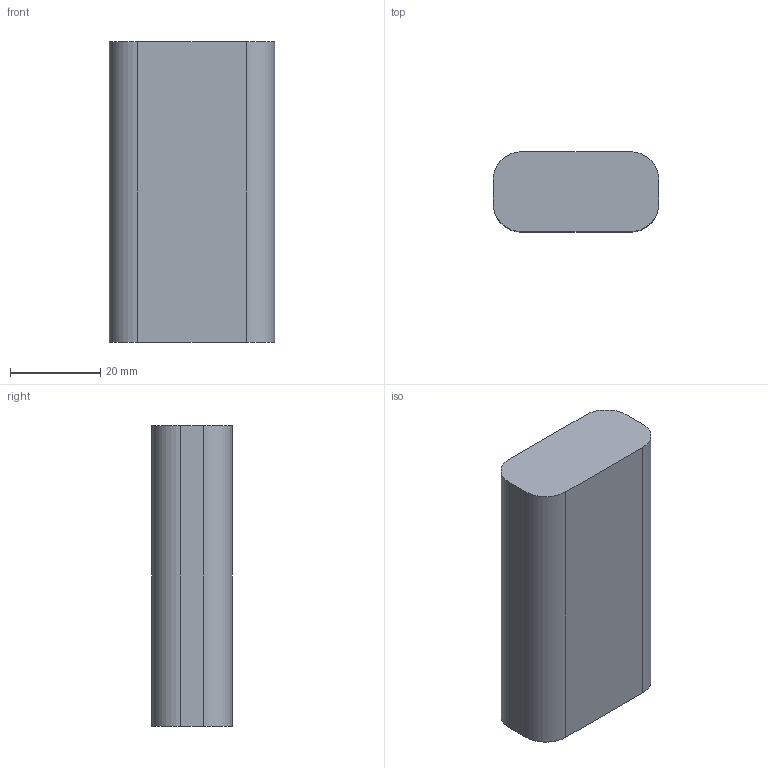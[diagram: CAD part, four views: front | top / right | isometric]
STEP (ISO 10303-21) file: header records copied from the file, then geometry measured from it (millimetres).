
FILE_DESCRIPTION (( 'STEP AP203' ), '1' );
FILE_NAME ('Battery Pack.step', '2015-03-14T23:35:37', ( '' ), ( '' ), 'SwSTEP 2.0', 'SolidWorks 2013', '' );
FILE_SCHEMA (( 'CONFIG_CONTROL_DESIGN' ));
Length unit declared in the file: inch
Products named in the file (1): Battery Pack
Bounding box: 36.83 x 17.78 x 66.8 mm (x, y, z)
Volume: 41432.2 mm3; surface area: 7808.3 mm2
Topology: 1 solids, 1 shells, 10 faces, 24 edges, 16 vertices
Faces by surface type: plane 6, cylinder 4
Entity records: 375 total; most frequent: DIRECTION 54, CARTESIAN_POINT 51, ORIENTED_EDGE 48, EDGE_CURVE 24, AXIS2_PLACEMENT_3D 19, LINE 16, VECTOR 16, VERTEX_POINT 16
